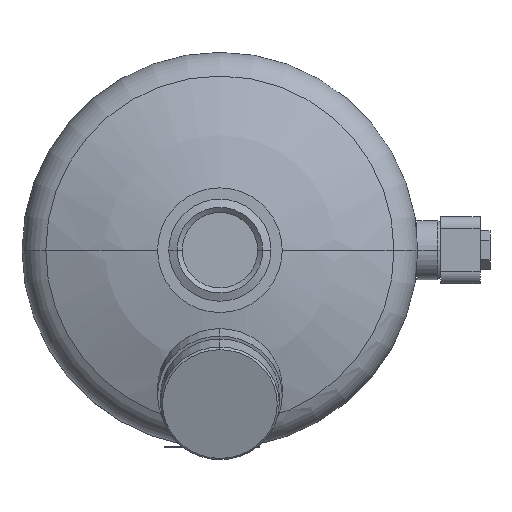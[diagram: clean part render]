
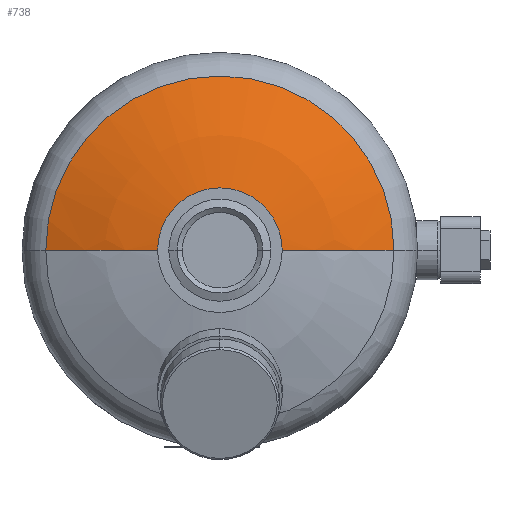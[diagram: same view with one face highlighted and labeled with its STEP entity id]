
A CAD part, front view. The second image highlights one B-rep face of the part: STEP entity #738.
In plain terms, the highlighted spherical face has radius 220 mm.
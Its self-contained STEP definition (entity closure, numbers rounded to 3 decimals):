
#237=CARTESIAN_POINT('',(0.,-113.337,0.));
#238=DIRECTION('',(0.,-1.,0.));
#239=DIRECTION('',(1.,0.,0.));
#240=AXIS2_PLACEMENT_3D('',#237,#238,#239);
#242=CARTESIAN_POINT('',(0.,-96.633,0.));
#243=DIRECTION('',(0.,-1.,0.));
#244=DIRECTION('',(1.,0.,0.));
#245=AXIS2_PLACEMENT_3D('',#242,#243,#244);
#323=CARTESIAN_POINT('',(0.,105.,0.));
#324=DIRECTION('',(0.,0.,1.));
#325=DIRECTION('',(-0.4,-0.917,0.));
#326=AXIS2_PLACEMENT_3D('',#323,#324,#325);
#333=CARTESIAN_POINT('',(0.,105.,0.));
#334=DIRECTION('',(0.,0.,-1.));
#335=DIRECTION('',(0.4,-0.917,0.));
#336=AXIS2_PLACEMENT_3D('',#333,#334,#335);
#505=CARTESIAN_POINT('',(88.,-96.633,0.));
#507=VERTEX_POINT('',#505);
#509=CARTESIAN_POINT('',(-88.,-96.633,0.));
#511=VERTEX_POINT('',#509);
#564=CARTESIAN_POINT('',(-27.,-113.337,0.));
#565=CARTESIAN_POINT('',(27.,-113.337,0.));
#566=VERTEX_POINT('',#564);
#567=VERTEX_POINT('',#565);
#724=CARTESIAN_POINT('',(0.,105.,0.));
#725=DIRECTION('',(0.,-1.,0.));
#726=DIRECTION('',(-1.,0.,0.));
#727=AXIS2_PLACEMENT_3D('',#724,#725,#726);
#728=SPHERICAL_SURFACE('',#727,220.);
#730=ORIENTED_EDGE('',*,*,#729,.T.);
#732=ORIENTED_EDGE('',*,*,#731,.F.);
#733=ORIENTED_EDGE('',*,*,#716,.F.);
#735=ORIENTED_EDGE('',*,*,#734,.T.);
#736=EDGE_LOOP('',(#730,#732,#733,#735));
#737=FACE_OUTER_BOUND('',#736,.F.);
#241=CIRCLE('',#240,27.);
#246=CIRCLE('',#245,88.);
#327=CIRCLE('',#326,220.);
#337=CIRCLE('',#336,220.);
#716=EDGE_CURVE('',#507,#511,#246,.T.);
#729=EDGE_CURVE('',#567,#566,#241,.T.);
#731=EDGE_CURVE('',#511,#566,#327,.T.);
#734=EDGE_CURVE('',#507,#567,#337,.T.);
#738=ADVANCED_FACE('',(#737),#728,.T.);
